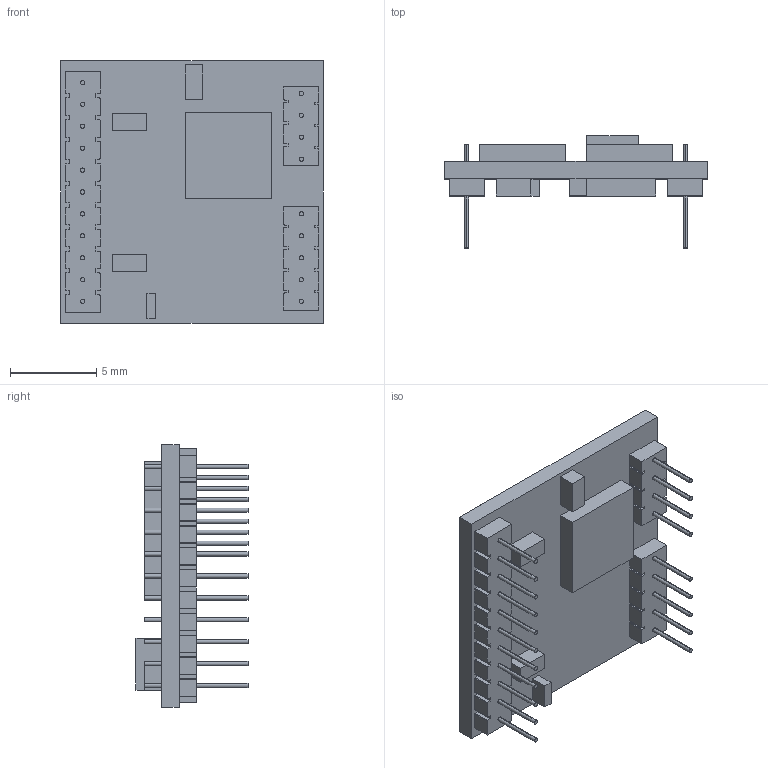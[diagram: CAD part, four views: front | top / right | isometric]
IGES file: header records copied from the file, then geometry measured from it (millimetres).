
Start section: SolidWorks IGES file using analytic representation for surfaces
Global section: file name: C:\Documents and Settings\David\My Documents\Compass\Released_Drawings\OS4000_Compass.IGS; native system: SolidWorks 2008; preprocessor: SolidWorks 2008; author: David; date: 081003.133209; units: inch
Bounding box: 15.24 x 6.5 x 15.24 mm (x, y, z)
Surface area: 778.5 mm2 (no closed solid volume)
Topology: 0 solids, 0 shells, 390 faces, 3272 edges, 3272 vertices
Faces by surface type: bspline 242, revolution 148
